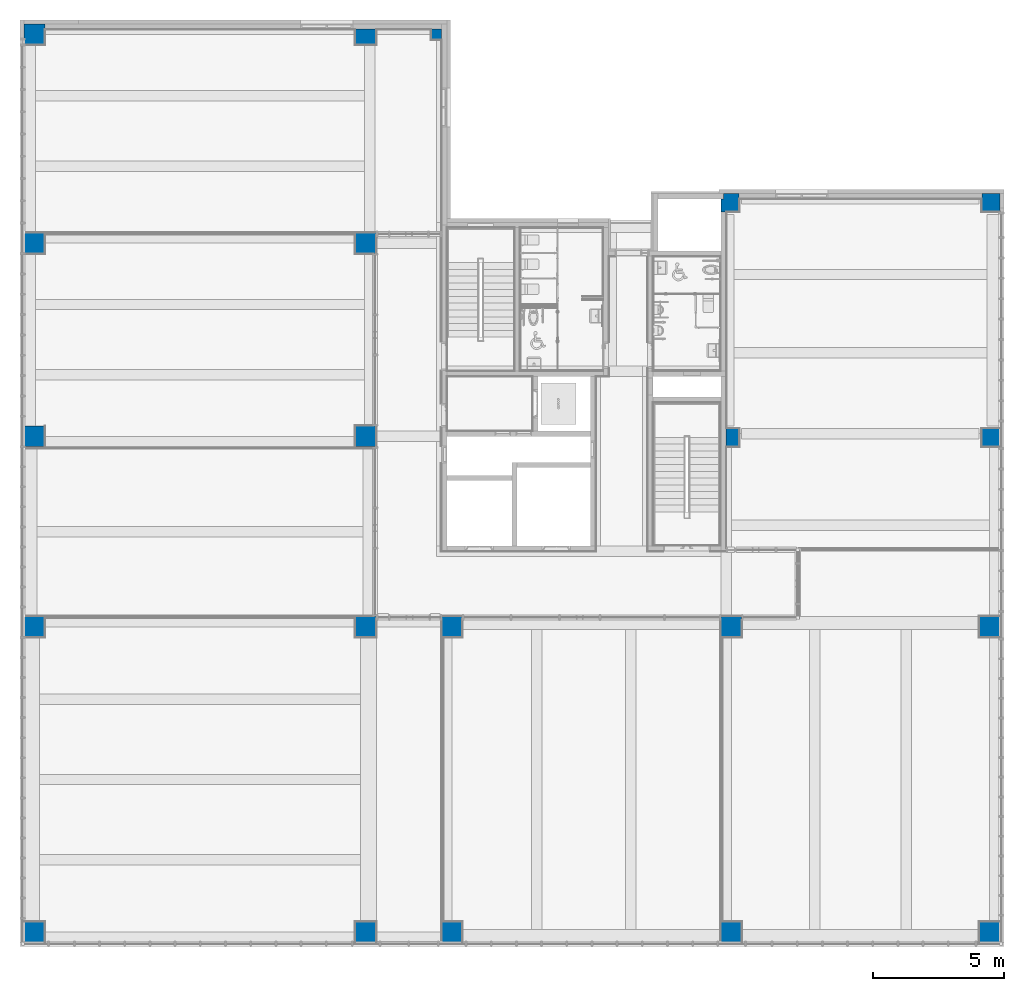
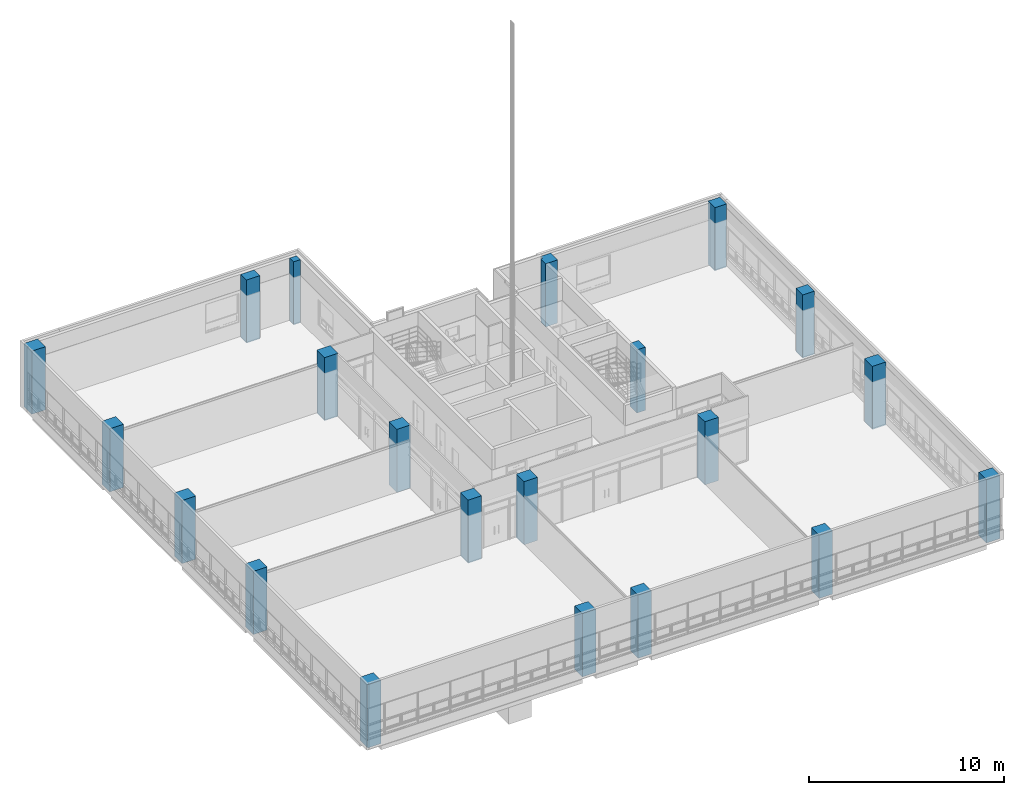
# One storey, part 1 of 82: 21 columns.
"""IFC2X3 building model written with IfcOpenShell, lengths in millimetres."""

from ifc_helpers import new_model, entity, si_unit, converted_unit, derived_unit, direction, frame, frame_2d, origin, origin_2d_with_axis, place, context, subcontext, project, spatial, polyline, rectangle, outline, extrude, source, transform, mapped, material, type_object, type_shapes, element, save


model = new_model("IFC2X3")

# Units and contexts
model_context = context("Model", 3, precision=0.01, world=origin(), true_north=direction((6.123031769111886e-17, 1.0)))
body_context = subcontext(model_context, "Body", "Model", "MODEL_VIEW")
ifc_project = project(units=[si_unit("LENGTHUNIT", "METRE", prefix="MILLI"), si_unit("AREAUNIT", "SQUARE_METRE"), si_unit("VOLUMEUNIT", "CUBIC_METRE"), converted_unit("PLANEANGLEUNIT", "DEGREE", entity("IfcRatioMeasure", 0.017453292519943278), si_unit("PLANEANGLEUNIT", "RADIAN"), dimensions=[0, 0, 0, 0, 0, 0, 0]), si_unit("MASSUNIT", "GRAM", prefix="KILO"), derived_unit("MASSDENSITYUNIT", [(si_unit("MASSUNIT", "GRAM", prefix="KILO"), 1), (si_unit("LENGTHUNIT", "METRE"), -3)]), derived_unit("MOMENTOFINERTIAUNIT", [(si_unit("LENGTHUNIT", "METRE"), 4)]), si_unit("TIMEUNIT", "SECOND"), si_unit("FREQUENCYUNIT", "HERTZ"), si_unit("THERMODYNAMICTEMPERATUREUNIT", "DEGREE_CELSIUS"), derived_unit("THERMALTRANSMITTANCEUNIT", [(si_unit("MASSUNIT", "GRAM", prefix="KILO"), 1), (si_unit("THERMODYNAMICTEMPERATUREUNIT", "KELVIN"), -1), (si_unit("TIMEUNIT", "SECOND"), -3)]), derived_unit("VOLUMETRICFLOWRATEUNIT", [(si_unit("LENGTHUNIT", "METRE"), 3), (si_unit("TIMEUNIT", "SECOND"), -1)]), derived_unit("MASSFLOWRATEUNIT", [(si_unit("MASSUNIT", "GRAM", prefix="KILO"), 1), (si_unit("TIMEUNIT", "SECOND"), -1)]), derived_unit("ROTATIONALFREQUENCYUNIT", [(si_unit("TIMEUNIT", "SECOND"), -1)]), si_unit("ELECTRICCURRENTUNIT", "AMPERE"), si_unit("ELECTRICVOLTAGEUNIT", "VOLT"), si_unit("POWERUNIT", "WATT"), si_unit("FORCEUNIT", "NEWTON", prefix="KILO"), si_unit("ILLUMINANCEUNIT", "LUX"), si_unit("LUMINOUSFLUXUNIT", "LUMEN"), si_unit("LUMINOUSINTENSITYUNIT", "CANDELA"), derived_unit("USERDEFINED", [(si_unit("MASSUNIT", "GRAM", prefix="KILO"), -1), (si_unit("LENGTHUNIT", "METRE"), -2), (si_unit("TIMEUNIT", "SECOND"), 3), (si_unit("LUMINOUSFLUXUNIT", "LUMEN"), 1)]), derived_unit("SOUNDPOWERUNIT", [(si_unit("MASSUNIT", "GRAM", prefix="KILO"), 1), (si_unit("LENGTHUNIT", "METRE"), 2), (si_unit("TIMEUNIT", "SECOND"), -3)]), derived_unit("SOUNDPRESSUREUNIT", [(si_unit("MASSUNIT", "GRAM", prefix="KILO"), 1), (si_unit("LENGTHUNIT", "METRE"), -1), (si_unit("TIMEUNIT", "SECOND"), -2)]), derived_unit("LINEARVELOCITYUNIT", [(si_unit("LENGTHUNIT", "METRE"), 1), (si_unit("TIMEUNIT", "SECOND"), -1)]), si_unit("PRESSUREUNIT", "PASCAL"), derived_unit("USERDEFINED", [(si_unit("LENGTHUNIT", "METRE"), -2), (si_unit("MASSUNIT", "GRAM", prefix="KILO"), 1), (si_unit("TIMEUNIT", "SECOND"), -2)]), derived_unit("LINEARFORCEUNIT", [(si_unit("MASSUNIT", "GRAM", prefix="KILO"), 1), (si_unit("LENGTHUNIT", "METRE"), 1), (si_unit("TIMEUNIT", "SECOND"), -2), (si_unit("LENGTHUNIT", "METRE"), -1)]), derived_unit("PLANARFORCEUNIT", [(si_unit("MASSUNIT", "GRAM", prefix="KILO"), 1), (si_unit("LENGTHUNIT", "METRE"), 1), (si_unit("TIMEUNIT", "SECOND"), -2), (si_unit("LENGTHUNIT", "METRE"), -2)])], contexts=[model_context])

# Site, building, storey
site_placement = place(None, frame((-14167.972527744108, -657.2125860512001, 0.0)))
site = spatial("IfcSite", under=ifc_project, at=site_placement, Name="Default", CompositionType="ELEMENT")
building_placement = place(site_placement, origin())
building = spatial("IfcBuilding", under=site, at=building_placement, Name="Sample Building", CompositionType="ELEMENT")
storey_placement = place(building_placement, frame((0.0, 0.0, 17500.0)))
storey = spatial("IfcBuildingStorey", under=building, at=storey_placement, Name="지상 5층", CompositionType="ELEMENT", Elevation=17500.00000000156)

# Columns
ifc_material = material(Name="KBIMS-콘크리트")
column_type_1 = type_object("IfcColumnType", Name="CL111-철근콘크리트구조 기둥 (각형)1:CL111-철근콘크리트구조 기둥 (각형)_800x800_B2-7C3", PredefinedType="COLUMN", material=ifc_material)
shared_shape_1 = source(origin(), body_context, "Body", "SweptSolid", [
    extrude(rectangle(XDim=800.0, YDim=800.0, at=frame_2d((-5.684341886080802e-14, 0.0), x_axis=(1.0, 0.0))), frame((14467.955105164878, 957.2121951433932, 17500.0), z_axis=(0.0, 0.0, 1.0), x_axis=(0.0, -1.0, 0.0)), (0.0, 0.0, 1.0), 3950.000000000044),
])
type_shapes(column_type_1, [shared_shape_1])
column_1_placement = place(storey_placement, frame((0.0, 0.0, -17500.0)))
element("IfcColumn", 1, at=column_1_placement, inside=storey, type_object=column_type_1, material=ifc_material, Name="CL111-철근콘크리트구조 기둥 (각형)1:CL111-철근콘크리트구조 기둥 (각형)_800x800_B2-7C3", ObjectType="CL111-철근콘크리트구조 기둥 (각형)1:CL111-철근콘크리트구조 기둥 (각형)_800x800_B2-7C3", context=body_context, shape_type="MappedRepresentation", body=[
    mapped(shared_shape_1, transform((0.0, 0.0, 0.0), scale=1.0)),
])
column_type_2 = type_object("IfcColumnType", Name="CL111-철근콘크리트구조 기둥 (각형)1:CL111-철근콘크리트구조 기둥 (각형)_800x800_2-7C2", PredefinedType="COLUMN", material=ifc_material)
shared_shape_2 = source(origin(), body_context, "Body", "SweptSolid", [
    extrude(rectangle(XDim=800.0, YDim=800.0, at=frame_2d((-5.684341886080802e-14, 0.0), x_axis=(1.0, 0.0))), frame((27167.955141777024, 957.2121951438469, 17500.0), z_axis=(0.0, 0.0, 1.0), x_axis=(0.0, -1.0, 0.0)), (0.0, 0.0, 1.0), 3950.000000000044),
])
type_shapes(column_type_2, [shared_shape_2])
column_2_placement = place(storey_placement, frame((0.0, 0.0, -17500.0)))
element("IfcColumn", 2, at=column_2_placement, inside=storey, type_object=column_type_2, material=ifc_material, Name="CL111-철근콘크리트구조 기둥 (각형)1:CL111-철근콘크리트구조 기둥 (각형)_800x800_2-7C2", ObjectType="CL111-철근콘크리트구조 기둥 (각형)1:CL111-철근콘크리트구조 기둥 (각형)_800x800_2-7C2", context=body_context, shape_type="MappedRepresentation", body=[
    mapped(shared_shape_2, transform((0.0, 0.0, 0.0), scale=1.0)),
])
column_type_3 = type_object("IfcColumnType", Name="CL111-철근콘크리트구조 기둥 (각형)1:CL111-철근콘크리트구조 기둥 (각형)_800x800_2-7C2", PredefinedType="COLUMN", material=ifc_material)
shared_shape_3 = source(origin(), body_context, "Body", "SweptSolid", [
    extrude(rectangle(XDim=800.0, YDim=800.0, at=frame_2d((-5.684341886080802e-14, 0.0), x_axis=(1.0, 0.0))), frame((30467.95511434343, 957.2121951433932, 17500.0), z_axis=(0.0, 0.0, 1.0), x_axis=(0.0, -1.0, 0.0)), (0.0, 0.0, 1.0), 3950.000000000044),
])
type_shapes(column_type_3, [shared_shape_3])
column_3_placement = place(storey_placement, frame((0.0, 0.0, -17500.0)))
element("IfcColumn", 3, at=column_3_placement, inside=storey, type_object=column_type_3, material=ifc_material, Name="CL111-철근콘크리트구조 기둥 (각형)1:CL111-철근콘크리트구조 기둥 (각형)_800x800_2-7C2", ObjectType="CL111-철근콘크리트구조 기둥 (각형)1:CL111-철근콘크리트구조 기둥 (각형)_800x800_2-7C2", context=body_context, shape_type="MappedRepresentation", body=[
    mapped(shared_shape_3, transform((0.0, 0.0, 0.0), scale=1.0)),
])
column_type_4 = type_object("IfcColumnType", Name="CL111-철근콘크리트구조 기둥 (각형)1:CL111-철근콘크리트구조 기둥 (각형)_800x800_2-7C2", PredefinedType="COLUMN", material=ifc_material)
shared_shape_4 = source(origin(), body_context, "Body", "SweptSolid", [
    extrude(rectangle(XDim=800.0, YDim=800.0, at=frame_2d((0.0, -4.348521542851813e-12), x_axis=(1.0, 0.0))), frame((41167.955141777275, 957.2121951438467, 17500.0), z_axis=(0.0, 0.0, 1.0), x_axis=(0.0, -1.0, 0.0)), (0.0, 0.0, 1.0), 3950.000000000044),
])
type_shapes(column_type_4, [shared_shape_4])
column_4_placement = place(storey_placement, frame((0.0, 0.0, -17500.0)))
element("IfcColumn", 4, at=column_4_placement, inside=storey, type_object=column_type_4, material=ifc_material, Name="CL111-철근콘크리트구조 기둥 (각형)1:CL111-철근콘크리트구조 기둥 (각형)_800x800_2-7C2", ObjectType="CL111-철근콘크리트구조 기둥 (각형)1:CL111-철근콘크리트구조 기둥 (각형)_800x800_2-7C2", context=body_context, shape_type="MappedRepresentation", body=[
    mapped(shared_shape_4, transform((0.0, 0.0, 0.0), scale=1.0)),
])
column_type_5 = type_object("IfcColumnType", Name="CL111-철근콘크리트구조 기둥 (각형)1:CL111-철근콘크리트구조 기둥 (각형)_800x800_B2-7C3", PredefinedType="COLUMN", material=ifc_material)
shared_shape_5 = source(origin(), body_context, "Body", "SweptSolid", [
    extrude(rectangle(XDim=800.0, YDim=800.0, at=frame_2d((0.0, -4.348521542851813e-12), x_axis=(1.0, 0.0))), frame((51067.96383810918, 957.2126170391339, 17500.0), z_axis=(0.0, 0.0, 1.0), x_axis=(0.0, -1.0, 0.0)), (0.0, 0.0, 1.0), 3950.000000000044),
])
type_shapes(column_type_5, [shared_shape_5])
column_5_placement = place(storey_placement, frame((0.0, 0.0, -17500.0)))
element("IfcColumn", 5, at=column_5_placement, inside=storey, type_object=column_type_5, material=ifc_material, Name="CL111-철근콘크리트구조 기둥 (각형)1:CL111-철근콘크리트구조 기둥 (각형)_800x800_B2-7C3", ObjectType="CL111-철근콘크리트구조 기둥 (각형)1:CL111-철근콘크리트구조 기둥 (각형)_800x800_B2-7C3", context=body_context, shape_type="MappedRepresentation", body=[
    mapped(shared_shape_5, transform((0.0, 0.0, 0.0), scale=1.0)),
])
column_type_6 = type_object("IfcColumnType", Name="CL111-철근콘크리트구조 기둥 (각형)1:CL111-철근콘크리트구조 기둥 (각형)_800x800_2-7C2", PredefinedType="COLUMN", material=ifc_material)
shared_shape_6 = source(origin(), body_context, "Body", "SweptSolid", [
    extrude(rectangle(XDim=800.0000000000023, YDim=800.0000000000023, at=origin_2d_with_axis()), frame((14467.95510516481, 12657.21261703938, 17500.0), z_axis=(0.0, 0.0, 1.0), x_axis=(0.0, -1.0, 0.0)), (0.0, 0.0, 1.0), 3950.000000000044),
])
type_shapes(column_type_6, [shared_shape_6])
column_6_placement = place(storey_placement, frame((0.0, 0.0, -17500.0)))
element("IfcColumn", 6, at=column_6_placement, inside=storey, type_object=column_type_6, material=ifc_material, Name="CL111-철근콘크리트구조 기둥 (각형)1:CL111-철근콘크리트구조 기둥 (각형)_800x800_2-7C2", ObjectType="CL111-철근콘크리트구조 기둥 (각형)1:CL111-철근콘크리트구조 기둥 (각형)_800x800_2-7C2", context=body_context, shape_type="MappedRepresentation", body=[
    mapped(shared_shape_6, transform((0.0, 0.0, 0.0), scale=1.0)),
])
column_type_7 = type_object("IfcColumnType", Name="CL111-철근콘크리트구조 기둥 (각형)1:CL111-철근콘크리트구조 기둥 (각형)_800x800_2-7C2", PredefinedType="COLUMN", material=ifc_material)
shared_shape_7 = source(origin(), body_context, "Body", "SweptSolid", [
    extrude(rectangle(XDim=800.0, YDim=800.0, at=origin_2d_with_axis()), frame((27167.955141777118, 12657.21261703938, 17500.0), z_axis=(0.0, 0.0, 1.0), x_axis=(0.0, -1.0, 0.0)), (0.0, 0.0, 1.0), 3950.000000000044),
])
type_shapes(column_type_7, [shared_shape_7])
column_7_placement = place(storey_placement, frame((0.0, 0.0, -17500.0)))
element("IfcColumn", 7, at=column_7_placement, inside=storey, type_object=column_type_7, material=ifc_material, Name="CL111-철근콘크리트구조 기둥 (각형)1:CL111-철근콘크리트구조 기둥 (각형)_800x800_2-7C2", ObjectType="CL111-철근콘크리트구조 기둥 (각형)1:CL111-철근콘크리트구조 기둥 (각형)_800x800_2-7C2", context=body_context, shape_type="MappedRepresentation", body=[
    mapped(shared_shape_7, transform((0.0, 0.0, 0.0), scale=1.0)),
])
column_type_8 = type_object("IfcColumnType", Name="CL111-철근콘크리트구조 기둥 (각형)1:CL111-철근콘크리트구조 기둥 (각형)_800x800_2-7C2", PredefinedType="COLUMN", material=ifc_material)
shared_shape_8 = source(origin(), body_context, "Body", "SweptSolid", [
    extrude(rectangle(XDim=800.0, YDim=800.0, at=origin_2d_with_axis()), frame((30467.95511434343, 12657.21261703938, 17500.0), z_axis=(0.0, 0.0, 1.0), x_axis=(0.0, -1.0, 0.0)), (0.0, 0.0, 1.0), 3950.000000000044),
])
type_shapes(column_type_8, [shared_shape_8])
column_8_placement = place(storey_placement, frame((0.0, 0.0, -17500.0)))
element("IfcColumn", 8, at=column_8_placement, inside=storey, type_object=column_type_8, material=ifc_material, Name="CL111-철근콘크리트구조 기둥 (각형)1:CL111-철근콘크리트구조 기둥 (각형)_800x800_2-7C2", ObjectType="CL111-철근콘크리트구조 기둥 (각형)1:CL111-철근콘크리트구조 기둥 (각형)_800x800_2-7C2", context=body_context, shape_type="MappedRepresentation", body=[
    mapped(shared_shape_8, transform((0.0, 0.0, 0.0), scale=1.0)),
])
column_type_9 = type_object("IfcColumnType", Name="CL111-철근콘크리트구조 기둥 (각형)1:CL111-철근콘크리트구조 기둥 (각형)_800x800_2-7C2", PredefinedType="COLUMN", material=ifc_material)
shared_shape_9 = source(origin(), body_context, "Body", "SweptSolid", [
    extrude(rectangle(XDim=800.0, YDim=800.0, at=frame_2d((0.0, -4.348521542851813e-12), x_axis=(1.0, 0.0))), frame((41167.955141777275, 12657.212617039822, 17500.0), z_axis=(0.0, 0.0, 1.0), x_axis=(0.0, -1.0, 0.0)), (0.0, 0.0, 1.0), 3950.000000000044),
])
type_shapes(column_type_9, [shared_shape_9])
column_9_placement = place(storey_placement, frame((0.0, 0.0, -17500.0)))
element("IfcColumn", 9, at=column_9_placement, inside=storey, type_object=column_type_9, material=ifc_material, Name="CL111-철근콘크리트구조 기둥 (각형)1:CL111-철근콘크리트구조 기둥 (각형)_800x800_2-7C2", ObjectType="CL111-철근콘크리트구조 기둥 (각형)1:CL111-철근콘크리트구조 기둥 (각형)_800x800_2-7C2", context=body_context, shape_type="MappedRepresentation", body=[
    mapped(shared_shape_9, transform((0.0, 0.0, 0.0), scale=1.0)),
])
column_type_10 = type_object("IfcColumnType", Name="CL111-철근콘크리트구조 기둥 (각형)1:CL111-철근콘크리트구조 기둥 (각형)_800x800_2-7C2", PredefinedType="COLUMN", material=ifc_material)
shared_shape_10 = source(origin(), body_context, "Body", "SweptSolid", [
    extrude(rectangle(XDim=800.0000000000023, YDim=800.0, at=frame_2d((0.0, 4.348521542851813e-12), x_axis=(1.0, 0.0))), frame((51067.95513594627, 12657.213038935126, 17500.0), z_axis=(0.0, 0.0, 1.0), x_axis=(0.0, -1.0, 0.0)), (0.0, 0.0, 1.0), 3950.000000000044),
])
type_shapes(column_type_10, [shared_shape_10])
column_10_placement = place(storey_placement, frame((0.0, 0.0, -17500.0)))
element("IfcColumn", 10, at=column_10_placement, inside=storey, type_object=column_type_10, material=ifc_material, Name="CL111-철근콘크리트구조 기둥 (각형)1:CL111-철근콘크리트구조 기둥 (각형)_800x800_2-7C2", ObjectType="CL111-철근콘크리트구조 기둥 (각형)1:CL111-철근콘크리트구조 기둥 (각형)_800x800_2-7C2", context=body_context, shape_type="MappedRepresentation", body=[
    mapped(shared_shape_10, transform((0.0, 0.0, 0.0), scale=1.0)),
])
column_type_11 = type_object("IfcColumnType", Name="CL111-철근콘크리트구조 기둥 (각형)1:CL111-철근콘크리트구조 기둥 (각형)_800x800_2-7C2", PredefinedType="COLUMN", material=ifc_material)
shared_shape_11 = source(origin(), body_context, "Body", "SweptSolid", [
    extrude(rectangle(XDim=800.0, YDim=800.0000000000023, at=origin_2d_with_axis()), frame((14467.955105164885, 19957.21261703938, 17500.0), z_axis=(0.0, 0.0, 1.0), x_axis=(0.0, -1.0, 0.0)), (0.0, 0.0, 1.0), 3950.000000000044),
])
type_shapes(column_type_11, [shared_shape_11])
column_11_placement = place(storey_placement, frame((0.0, 0.0, -17500.0)))
element("IfcColumn", 11, at=column_11_placement, inside=storey, type_object=column_type_11, material=ifc_material, Name="CL111-철근콘크리트구조 기둥 (각형)1:CL111-철근콘크리트구조 기둥 (각형)_800x800_2-7C2", ObjectType="CL111-철근콘크리트구조 기둥 (각형)1:CL111-철근콘크리트구조 기둥 (각형)_800x800_2-7C2", context=body_context, shape_type="MappedRepresentation", body=[
    mapped(shared_shape_11, transform((0.0, 0.0, 0.0), scale=1.0)),
])
column_type_12 = type_object("IfcColumnType", Name="CL111-철근콘크리트구조 기둥 (각형)1:CL111-철근콘크리트구조 기둥 (각형)_800x800_2-7C2", PredefinedType="COLUMN", material=ifc_material)
shared_shape_12 = source(origin(), body_context, "Body", "SweptSolid", [
    extrude(rectangle(XDim=800.0, YDim=800.0, at=origin_2d_with_axis()), frame((27167.95514177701, 19957.212617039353, 17500.0), z_axis=(0.0, 0.0, 1.0), x_axis=(0.0, -1.0, 0.0)), (0.0, 0.0, 1.0), 3950.000000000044),
])
type_shapes(column_type_12, [shared_shape_12])
column_12_placement = place(storey_placement, frame((0.0, 0.0, -17500.0)))
element("IfcColumn", 12, at=column_12_placement, inside=storey, type_object=column_type_12, material=ifc_material, Name="CL111-철근콘크리트구조 기둥 (각형)1:CL111-철근콘크리트구조 기둥 (각형)_800x800_2-7C2", ObjectType="CL111-철근콘크리트구조 기둥 (각형)1:CL111-철근콘크리트구조 기둥 (각형)_800x800_2-7C2", context=body_context, shape_type="MappedRepresentation", body=[
    mapped(shared_shape_12, transform((0.0, 0.0, 0.0), scale=1.0)),
])
column_type_13 = type_object("IfcColumnType", Name="CL111-철근콘크리트구조 기둥 (각형)1:CL111-철근콘크리트구조 기둥 (각형)_700x700_5-6C1", PredefinedType="COLUMN", material=ifc_material)
shared_shape_13 = source(origin(), body_context, "Body", "SweptSolid", [
    extrude(rectangle(XDim=700.0000000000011, YDim=499.9913238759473, at=frame_2d((0.0, -4.320099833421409e-12), x_axis=(1.0, 0.0))), frame((41217.959460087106, 19907.21261703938, 17500.0), z_axis=(0.0, 0.0, 1.0), x_axis=(0.0, -1.0, 0.0)), (0.0, 0.0, 1.0), 3950.000000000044),
])
type_shapes(column_type_13, [shared_shape_13])
column_13_placement = place(storey_placement, frame((0.0, 0.0, -17500.0)))
element("IfcColumn", 13, at=column_13_placement, inside=storey, type_object=column_type_13, material=ifc_material, Name="CL111-철근콘크리트구조 기둥 (각형)1:CL111-철근콘크리트구조 기둥 (각형)_700x700_5-6C1", ObjectType="CL111-철근콘크리트구조 기둥 (각형)1:CL111-철근콘크리트구조 기둥 (각형)_700x700_5-6C1", context=body_context, shape_type="MappedRepresentation", body=[
    mapped(shared_shape_13, transform((0.0, 0.0, 0.0), scale=1.0)),
])
column_type_14 = type_object("IfcColumnType", Name="CL111-철근콘크리트구조 기둥 (각형)1:CL111-철근콘크리트구조 기둥 (각형)_700x700_5-6C1", PredefinedType="COLUMN", material=ifc_material)
shared_shape_14 = source(origin(), body_context, "Body", "SweptSolid", [
    extrude(rectangle(XDim=700.0000000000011, YDim=699.9999999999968, at=origin_2d_with_axis()), frame((51117.96386554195, 19907.21261703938, 17500.0), z_axis=(0.0, 0.0, 1.0), x_axis=(0.0, -1.0, 0.0)), (0.0, 0.0, 1.0), 3950.000000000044),
])
type_shapes(column_type_14, [shared_shape_14])
column_14_placement = place(storey_placement, frame((0.0, 0.0, -17500.0)))
element("IfcColumn", 14, at=column_14_placement, inside=storey, type_object=column_type_14, material=ifc_material, Name="CL111-철근콘크리트구조 기둥 (각형)1:CL111-철근콘크리트구조 기둥 (각형)_700x700_5-6C1", ObjectType="CL111-철근콘크리트구조 기둥 (각형)1:CL111-철근콘크리트구조 기둥 (각형)_700x700_5-6C1", context=body_context, shape_type="MappedRepresentation", body=[
    mapped(shared_shape_14, transform((0.0, 0.0, 0.0), scale=1.0)),
])
column_type_15 = type_object("IfcColumnType", Name="CL111-철근콘크리트구조 기둥 (각형)1:CL111-철근콘크리트구조 기둥 (각형)_800x800_2-7C2", PredefinedType="COLUMN", material=ifc_material)
shared_shape_15 = source(origin(), body_context, "Body", "SweptSolid", [
    extrude(rectangle(XDim=800.0, YDim=800.0000000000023, at=origin_2d_with_axis()), frame((14467.95510516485, 27357.212617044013, 17500.0), z_axis=(0.0, 0.0, 1.0), x_axis=(0.0, -1.0, 0.0)), (0.0, 0.0, 1.0), 3950.000000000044),
])
type_shapes(column_type_15, [shared_shape_15])
column_15_placement = place(storey_placement, frame((0.0, 0.0, -17500.0)))
element("IfcColumn", 15, at=column_15_placement, inside=storey, type_object=column_type_15, material=ifc_material, Name="CL111-철근콘크리트구조 기둥 (각형)1:CL111-철근콘크리트구조 기둥 (각형)_800x800_2-7C2", ObjectType="CL111-철근콘크리트구조 기둥 (각형)1:CL111-철근콘크리트구조 기둥 (각형)_800x800_2-7C2", context=body_context, shape_type="MappedRepresentation", body=[
    mapped(shared_shape_15, transform((0.0, 0.0, 0.0), scale=1.0)),
])
column_type_16 = type_object("IfcColumnType", Name="CL111-철근콘크리트구조 기둥 (각형)1:CL111-철근콘크리트구조 기둥 (각형)_800x800_2-7C2", PredefinedType="COLUMN", material=ifc_material)
shared_shape_16 = source(origin(), body_context, "Body", "SweptSolid", [
    extrude(rectangle(XDim=800.0, YDim=800.0, at=origin_2d_with_axis()), frame((27167.955141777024, 27357.212617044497, 17500.0), z_axis=(0.0, 0.0, 1.0), x_axis=(0.0, -1.0, 0.0)), (0.0, 0.0, 1.0), 3950.000000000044),
])
type_shapes(column_type_16, [shared_shape_16])
column_16_placement = place(storey_placement, frame((0.0, 0.0, -17500.0)))
element("IfcColumn", 16, at=column_16_placement, inside=storey, type_object=column_type_16, material=ifc_material, Name="CL111-철근콘크리트구조 기둥 (각형)1:CL111-철근콘크리트구조 기둥 (각형)_800x800_2-7C2", ObjectType="CL111-철근콘크리트구조 기둥 (각형)1:CL111-철근콘크리트구조 기둥 (각형)_800x800_2-7C2", context=body_context, shape_type="MappedRepresentation", body=[
    mapped(shared_shape_16, transform((0.0, 0.0, 0.0), scale=1.0)),
])
column_type_17 = type_object("IfcColumnType", Name="CL111-철근콘크리트구조 기둥 (각형)1:CL111-철근콘크리트구조 기둥 (각형)_700x700_5-6C1", PredefinedType="COLUMN", material=ifc_material)
shared_shape_17 = source(origin(), body_context, "Body", "SweptSolid", [
    extrude(outline(polyline([(-99.99979396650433, -266.6695521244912), (399.99989698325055, -266.6695521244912), (399.99989698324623, 433.3304478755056), (-300.0001030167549, 433.3304478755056), (-300.0001030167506, -166.66089575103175), (-99.99979396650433, -166.66089575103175), (-99.99979396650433, -266.6695521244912)])), frame((41034.62469390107, 28957.212514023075, 17500.0), z_axis=(0.0, 0.0, 1.0), x_axis=(0.0, -1.0, 0.0)), (0.0, 0.0, 1.0), 3950.000000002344),
])
type_shapes(column_type_17, [shared_shape_17])
column_17_placement = place(storey_placement, frame((0.0, 0.0, -17500.0)))
element("IfcColumn", 17, at=column_17_placement, inside=storey, type_object=column_type_17, material=ifc_material, Name="CL111-철근콘크리트구조 기둥 (각형)1:CL111-철근콘크리트구조 기둥 (각형)_700x700_5-6C1", ObjectType="CL111-철근콘크리트구조 기둥 (각형)1:CL111-철근콘크리트구조 기둥 (각형)_700x700_5-6C1", context=body_context, shape_type="MappedRepresentation", body=[
    mapped(shared_shape_17, transform((0.0, 0.0, 0.0), scale=1.0)),
])
column_type_18 = type_object("IfcColumnType", Name="CL111-철근콘크리트구조 기둥 (각형)1:CL111-철근콘크리트구조 기둥 (각형)_700x700_5-6C1", PredefinedType="COLUMN", material=ifc_material)
shared_shape_18 = source(origin(), body_context, "Body", "SweptSolid", [
    extrude(rectangle(XDim=700.0000000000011, YDim=699.9999999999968, at=origin_2d_with_axis()), frame((51117.96386554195, 28907.212704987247, 17500.0), z_axis=(0.0, 0.0, 1.0), x_axis=(0.0, -1.0, 0.0)), (0.0, 0.0, 1.0), 3950.000000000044),
])
type_shapes(column_type_18, [shared_shape_18])
column_18_placement = place(storey_placement, frame((0.0, 0.0, -17500.0)))
element("IfcColumn", 18, at=column_18_placement, inside=storey, type_object=column_type_18, material=ifc_material, Name="CL111-철근콘크리트구조 기둥 (각형)1:CL111-철근콘크리트구조 기둥 (각형)_700x700_5-6C1", ObjectType="CL111-철근콘크리트구조 기둥 (각형)1:CL111-철근콘크리트구조 기둥 (각형)_700x700_5-6C1", context=body_context, shape_type="MappedRepresentation", body=[
    mapped(shared_shape_18, transform((0.0, 0.0, 0.0), scale=1.0)),
])
column_type_19 = type_object("IfcColumnType", Name="CL111-철근콘크리트구조 기둥 (각형)1:CL111-철근콘크리트구조 기둥 (각형)_800x800_B2-7C3", PredefinedType="COLUMN", material=ifc_material)
shared_shape_19 = source(origin(), body_context, "Body", "SweptSolid", [
    extrude(rectangle(XDim=800.0, YDim=800.0, at=origin_2d_with_axis()), frame((14467.955105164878, 35357.21258960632, 17500.0), z_axis=(0.0, 0.0, 1.0), x_axis=(0.0, -1.0, 0.0)), (0.0, 0.0, 1.0), 3950.000000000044),
])
type_shapes(column_type_19, [shared_shape_19])
column_19_placement = place(storey_placement, frame((0.0, 0.0, -17500.0)))
element("IfcColumn", 19, at=column_19_placement, inside=storey, type_object=column_type_19, material=ifc_material, Name="CL111-철근콘크리트구조 기둥 (각형)1:CL111-철근콘크리트구조 기둥 (각형)_800x800_B2-7C3", ObjectType="CL111-철근콘크리트구조 기둥 (각형)1:CL111-철근콘크리트구조 기둥 (각형)_800x800_B2-7C3", context=body_context, shape_type="MappedRepresentation", body=[
    mapped(shared_shape_19, transform((0.0, 0.0, 0.0), scale=1.0)),
])
column_type_20 = type_object("IfcColumnType", Name="CL111-철근콘크리트구조 기둥 (각형)1:CL111-철근콘크리트구조 기둥 (각형)_800x800_2-7C2", PredefinedType="COLUMN", material=ifc_material)
shared_shape_20 = source(origin(), body_context, "Body", "SweptSolid", [
    extrude(rectangle(XDim=599.9997055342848, YDim=800.0, at=frame_2d((2.1600499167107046e-12, 0.0), x_axis=(1.0, 0.0))), frame((27167.955141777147, 35257.21244237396, 17500.0), z_axis=(0.0, 0.0, 1.0), x_axis=(0.0, -1.0, 0.0)), (0.0, 0.0, 1.0), 3950.000000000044),
])
type_shapes(column_type_20, [shared_shape_20])
column_20_placement = place(storey_placement, frame((0.0, 0.0, -17500.0)))
element("IfcColumn", 20, at=column_20_placement, inside=storey, type_object=column_type_20, material=ifc_material, Name="CL111-철근콘크리트구조 기둥 (각형)1:CL111-철근콘크리트구조 기둥 (각형)_800x800_2-7C2", ObjectType="CL111-철근콘크리트구조 기둥 (각형)1:CL111-철근콘크리트구조 기둥 (각형)_800x800_2-7C2", context=body_context, shape_type="MappedRepresentation", body=[
    mapped(shared_shape_20, transform((0.0, 0.0, 0.0), scale=1.0)),
])
column_type_21 = type_object("IfcColumnType", Name="CL111-철근콘크리트구조 기둥 (각형)1:CL111-철근콘크리트구조 기둥 (각형)_600x600_B2-10C4", PredefinedType="COLUMN", material=ifc_material)
shared_shape_21 = source(origin(), body_context, "Body", "SweptSolid", [
    extrude(rectangle(XDim=399.9996781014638, YDim=400.01734935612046, at=frame_2d((-2.1600499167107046e-12, -2.1600499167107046e-12), x_axis=(1.0, 0.0))), frame((29867.955086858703, 35357.212456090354, 17500.0), z_axis=(0.0, 0.0, 1.0), x_axis=(0.0, -1.0, 0.0)), (0.0, 0.0, 1.0), 3950.000000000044),
])
type_shapes(column_type_21, [shared_shape_21])
column_21_placement = place(storey_placement, frame((0.0, 0.0, -17500.0)))
element("IfcColumn", 21, at=column_21_placement, inside=storey, type_object=column_type_21, material=ifc_material, Name="CL111-철근콘크리트구조 기둥 (각형)1:CL111-철근콘크리트구조 기둥 (각형)_600x600_B2-10C4", ObjectType="CL111-철근콘크리트구조 기둥 (각형)1:CL111-철근콘크리트구조 기둥 (각형)_600x600_B2-10C4", context=body_context, shape_type="MappedRepresentation", body=[
    mapped(shared_shape_21, transform((0.0, 0.0, 0.0), scale=1.0)),
])

save(model, "model.ifc")
